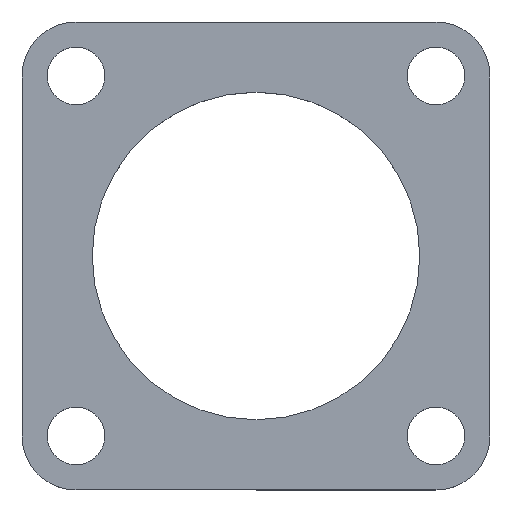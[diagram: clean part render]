
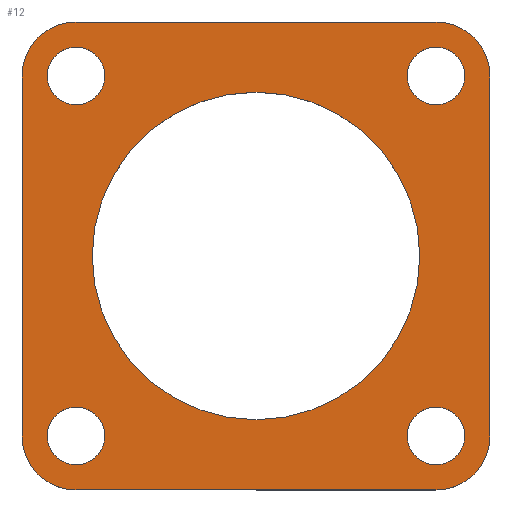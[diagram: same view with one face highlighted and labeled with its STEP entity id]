
A CAD part, top view. The second image highlights one B-rep face of the part: STEP entity #12.
In plain terms, the highlighted planar face has unit normal (0, 0, 1).
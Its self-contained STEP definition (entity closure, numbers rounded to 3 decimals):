
#2 = CARTESIAN_POINT ( 'NONE',  ( -10., 10., 1. ) ) ;
#6 = DIRECTION ( 'NONE',  ( 0., 0., 1. ) ) ;
#7 = EDGE_CURVE ( 'NONE', #500, #189, #409, .T. ) ;
#12 = ADVANCED_FACE ( 'NONE', ( #62, #499, #533, #312, #370, #165 ), #243, .T. ) ;
#18 = CARTESIAN_POINT ( 'NONE',  ( 9.1, 0., 1. ) ) ;
#21 = AXIS2_PLACEMENT_3D ( 'NONE', #383, #6, #390 ) ;
#24 = EDGE_CURVE ( 'NONE', #31, #31, #513, .T. ) ;
#25 = VECTOR ( 'NONE', #305, 1000. ) ;
#31 = VERTEX_POINT ( 'NONE', #208 ) ;
#33 = AXIS2_PLACEMENT_3D ( 'NONE', #400, #45, #232 ) ;
#39 = VERTEX_POINT ( 'NONE', #114 ) ;
#42 = DIRECTION ( 'NONE',  ( 0., 0., 1. ) ) ;
#45 = DIRECTION ( 'NONE',  ( 0., 0., 1. ) ) ;
#51 = DIRECTION ( 'NONE',  ( 0., 0., 1. ) ) ;
#52 = EDGE_CURVE ( 'NONE', #295, #295, #202, .T. ) ;
#62 = FACE_BOUND ( 'NONE', #403, .T. ) ;
#64 = CARTESIAN_POINT ( 'NONE',  ( -8.4, -10., 1. ) ) ;
#71 = AXIS2_PLACEMENT_3D ( 'NONE', #155, #199, #292 ) ;
#76 = VERTEX_POINT ( 'NONE', #203 ) ;
#78 = EDGE_CURVE ( 'NONE', #39, #76, #423, .T. ) ;
#80 = EDGE_CURVE ( 'NONE', #380, #380, #429, .T. ) ;
#87 = EDGE_CURVE ( 'NONE', #76, #253, #456, .T. ) ;
#88 = ORIENTED_EDGE ( 'NONE', *, *, #251, .F. ) ;
#89 = DIRECTION ( 'NONE',  ( -1., 0., 0. ) ) ;
#93 = CIRCLE ( 'NONE', #126, 3. ) ;
#94 = ORIENTED_EDGE ( 'NONE', *, *, #78, .T. ) ;
#97 = CARTESIAN_POINT ( 'NONE',  ( -13., 10., 1. ) ) ;
#99 = CARTESIAN_POINT ( 'NONE',  ( 13., 10., 1. ) ) ;
#110 = EDGE_CURVE ( 'NONE', #289, #500, #272, .T. ) ;
#114 = CARTESIAN_POINT ( 'NONE',  ( -10., -13., 1. ) ) ;
#119 = AXIS2_PLACEMENT_3D ( 'NONE', #392, #501, #503 ) ;
#122 = CARTESIAN_POINT ( 'NONE',  ( -10., 13., 1. ) ) ;
#124 = ORIENTED_EDGE ( 'NONE', *, *, #87, .T. ) ;
#125 = DIRECTION ( 'NONE',  ( 1., 0., 0. ) ) ;
#126 = AXIS2_PLACEMENT_3D ( 'NONE', #433, #267, #183 ) ;
#140 = EDGE_CURVE ( 'NONE', #430, #289, #211, .T. ) ;
#155 = CARTESIAN_POINT ( 'NONE',  ( 10., -10., 1. ) ) ;
#162 = ORIENTED_EDGE ( 'NONE', *, *, #110, .T. ) ;
#163 = AXIS2_PLACEMENT_3D ( 'NONE', #531, #201, #333 ) ;
#165 = FACE_BOUND ( 'NONE', #337, .T. ) ;
#183 = DIRECTION ( 'NONE',  ( -1., 0., 0. ) ) ;
#189 = VERTEX_POINT ( 'NONE', #310 ) ;
#198 = DIRECTION ( 'NONE',  ( 0., 0., 1. ) ) ;
#199 = DIRECTION ( 'NONE',  ( 0., 0., 1. ) ) ;
#201 = DIRECTION ( 'NONE',  ( 0., 0., 1. ) ) ;
#202 = CIRCLE ( 'NONE', #119, 9.1 ) ;
#203 = CARTESIAN_POINT ( 'NONE',  ( 10., -13., 1. ) ) ;
#208 = CARTESIAN_POINT ( 'NONE',  ( 11.6, -10., 1. ) ) ;
#211 = LINE ( 'NONE', #122, #326 ) ;
#217 = EDGE_LOOP ( 'NONE', ( #328 ) ) ;
#218 = DIRECTION ( 'NONE',  ( 0., 0., 1. ) ) ;
#220 = CARTESIAN_POINT ( 'NONE',  ( -10., -13., 1. ) ) ;
#221 = EDGE_CURVE ( 'NONE', #360, #430, #418, .T. ) ;
#232 = DIRECTION ( 'NONE',  ( 1., 0., 0. ) ) ;
#238 = AXIS2_PLACEMENT_3D ( 'NONE', #405, #198, #524 ) ;
#243 = PLANE ( 'NONE',  #163 ) ;
#251 = EDGE_CURVE ( 'NONE', #465, #465, #458, .T. ) ;
#253 = VERTEX_POINT ( 'NONE', #438 ) ;
#257 = ORIENTED_EDGE ( 'NONE', *, *, #140, .T. ) ;
#264 = DIRECTION ( 'NONE',  ( -1., 0., 0. ) ) ;
#266 = DIRECTION ( 'NONE',  ( -1., 0., 0. ) ) ;
#267 = DIRECTION ( 'NONE',  ( 0., 0., 1. ) ) ;
#272 = CIRCLE ( 'NONE', #340, 3. ) ;
#279 = AXIS2_PLACEMENT_3D ( 'NONE', #507, #218, #125 ) ;
#280 = VERTEX_POINT ( 'NONE', #490 ) ;
#289 = VERTEX_POINT ( 'NONE', #394 ) ;
#292 = DIRECTION ( 'NONE',  ( 1., 0., 0. ) ) ;
#293 = DIRECTION ( 'NONE',  ( 0., 1., 0. ) ) ;
#295 = VERTEX_POINT ( 'NONE', #18 ) ;
#300 = LINE ( 'NONE', #99, #401 ) ;
#302 = VECTOR ( 'NONE', #358, 1000. ) ;
#305 = DIRECTION ( 'NONE',  ( 1., 0., 0. ) ) ;
#306 = ORIENTED_EDGE ( 'NONE', *, *, #368, .F. ) ;
#310 = CARTESIAN_POINT ( 'NONE',  ( -13., -10., 1. ) ) ;
#312 = FACE_BOUND ( 'NONE', #217, .T. ) ;
#315 = CARTESIAN_POINT ( 'NONE',  ( -13., 10., 1. ) ) ;
#322 = EDGE_CURVE ( 'NONE', #189, #39, #93, .T. ) ;
#326 = VECTOR ( 'NONE', #264, 1000. ) ;
#328 = ORIENTED_EDGE ( 'NONE', *, *, #52, .F. ) ;
#333 = DIRECTION ( 'NONE',  ( 1., 0., 0. ) ) ;
#334 = CARTESIAN_POINT ( 'NONE',  ( 11.6, 10., 1. ) ) ;
#337 = EDGE_LOOP ( 'NONE', ( #542 ) ) ;
#340 = AXIS2_PLACEMENT_3D ( 'NONE', #2, #42, #266 ) ;
#356 = CARTESIAN_POINT ( 'NONE',  ( 10., 10., 1. ) ) ;
#358 = DIRECTION ( 'NONE',  ( 0., -1., 0. ) ) ;
#360 = VERTEX_POINT ( 'NONE', #446 ) ;
#368 = EDGE_CURVE ( 'NONE', #280, #280, #498, .T. ) ;
#370 = FACE_BOUND ( 'NONE', #519, .T. ) ;
#380 = VERTEX_POINT ( 'NONE', #64 ) ;
#383 = CARTESIAN_POINT ( 'NONE',  ( -10., -10., 1. ) ) ;
#390 = DIRECTION ( 'NONE',  ( 1., 0., 0. ) ) ;
#392 = CARTESIAN_POINT ( 'NONE',  ( 0., 0., 1. ) ) ;
#394 = CARTESIAN_POINT ( 'NONE',  ( -10., 13., 1. ) ) ;
#400 = CARTESIAN_POINT ( 'NONE',  ( 10., 10., 1. ) ) ;
#401 = VECTOR ( 'NONE', #293, 1000. ) ;
#402 = EDGE_LOOP ( 'NONE', ( #124, #425, #436, #257, #162, #488, #479, #94 ) ) ;
#403 = EDGE_LOOP ( 'NONE', ( #528 ) ) ;
#405 = CARTESIAN_POINT ( 'NONE',  ( -10., 10., 1. ) ) ;
#409 = LINE ( 'NONE', #315, #302 ) ;
#415 = EDGE_LOOP ( 'NONE', ( #306 ) ) ;
#418 = CIRCLE ( 'NONE', #534, 3. ) ;
#423 = LINE ( 'NONE', #220, #25 ) ;
#425 = ORIENTED_EDGE ( 'NONE', *, *, #546, .T. ) ;
#429 = CIRCLE ( 'NONE', #21, 1.6 ) ;
#430 = VERTEX_POINT ( 'NONE', #484 ) ;
#433 = CARTESIAN_POINT ( 'NONE',  ( -10., -10., 1. ) ) ;
#436 = ORIENTED_EDGE ( 'NONE', *, *, #221, .T. ) ;
#438 = CARTESIAN_POINT ( 'NONE',  ( 13., -10., 1. ) ) ;
#446 = CARTESIAN_POINT ( 'NONE',  ( 13., 10., 1. ) ) ;
#456 = CIRCLE ( 'NONE', #279, 3. ) ;
#458 = CIRCLE ( 'NONE', #33, 1.6 ) ;
#465 = VERTEX_POINT ( 'NONE', #334 ) ;
#479 = ORIENTED_EDGE ( 'NONE', *, *, #322, .T. ) ;
#484 = CARTESIAN_POINT ( 'NONE',  ( 10., 13., 1. ) ) ;
#488 = ORIENTED_EDGE ( 'NONE', *, *, #7, .T. ) ;
#490 = CARTESIAN_POINT ( 'NONE',  ( -8.4, 10., 1. ) ) ;
#498 = CIRCLE ( 'NONE', #238, 1.6 ) ;
#499 = FACE_BOUND ( 'NONE', #415, .T. ) ;
#500 = VERTEX_POINT ( 'NONE', #97 ) ;
#501 = DIRECTION ( 'NONE',  ( 0., 0., 1. ) ) ;
#503 = DIRECTION ( 'NONE',  ( 1., 0., 0. ) ) ;
#507 = CARTESIAN_POINT ( 'NONE',  ( 10., -10., 1. ) ) ;
#513 = CIRCLE ( 'NONE', #71, 1.6 ) ;
#519 = EDGE_LOOP ( 'NONE', ( #88 ) ) ;
#524 = DIRECTION ( 'NONE',  ( 1., 0., 0. ) ) ;
#528 = ORIENTED_EDGE ( 'NONE', *, *, #80, .F. ) ;
#531 = CARTESIAN_POINT ( 'NONE',  ( 10., -10., 1. ) ) ;
#533 = FACE_OUTER_BOUND ( 'NONE', #402, .T. ) ;
#534 = AXIS2_PLACEMENT_3D ( 'NONE', #356, #51, #89 ) ;
#542 = ORIENTED_EDGE ( 'NONE', *, *, #24, .F. ) ;
#546 = EDGE_CURVE ( 'NONE', #253, #360, #300, .T. ) ;
